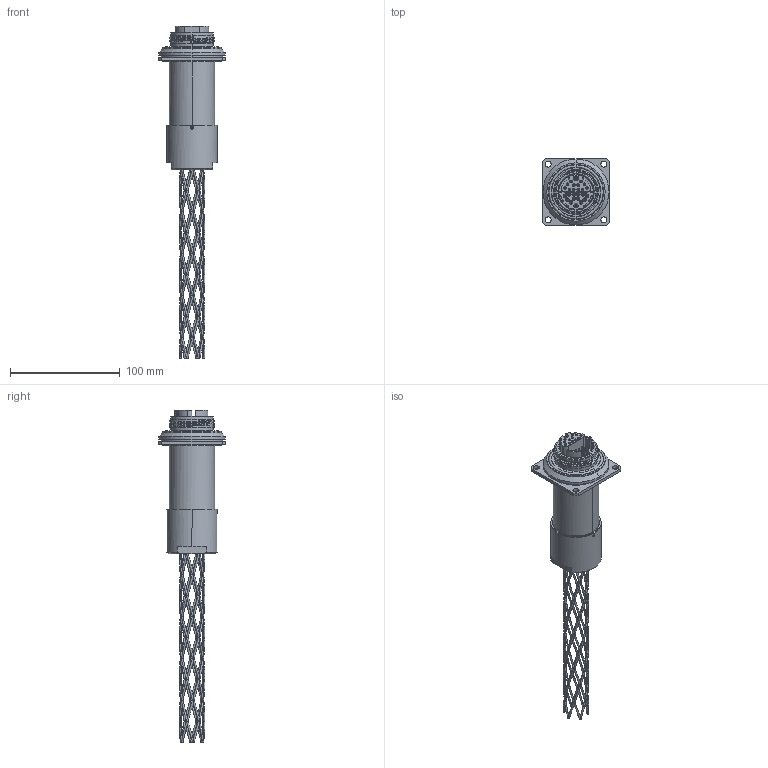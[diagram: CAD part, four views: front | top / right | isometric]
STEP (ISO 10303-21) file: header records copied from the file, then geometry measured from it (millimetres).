
FILE_DESCRIPTION (( 'STEP AP214' ), '1' );
FILE_NAME ('QFOCA3-G1-RHFX-24X-X-GX.STEP', '2025-08-05T21:02:36', ( '' ), ( '' ), 'SwSTEP 2.0', 'SolidWorks 2024', '' );
FILE_SCHEMA (( 'AUTOMOTIVE_DESIGN' ));
Length unit declared in the file: inch
Products named in the file (1): QFOCA3-G1-RHFX-24X-X-GX
Bounding box: 60.2 x 60.2 x 301.94 mm (x, y, z)
Volume: 193493 mm3; surface area: 50020.7 mm2
Topology: 18 solids, 27 shells, 1357 faces, 3210 edges, 1862 vertices
Faces by surface type: cylinder 394, cone 265, torus 250, bspline 226, plane 222
Entity records: 144071 total; most frequent: CARTESIAN_POINT 114387, ORIENTED_EDGE 6416, DIRECTION 6165, EDGE_CURVE 3208, AXIS2_PLACEMENT_3D 2646, VERTEX_POINT 1862, CIRCLE 1514, EDGE_LOOP 1480
